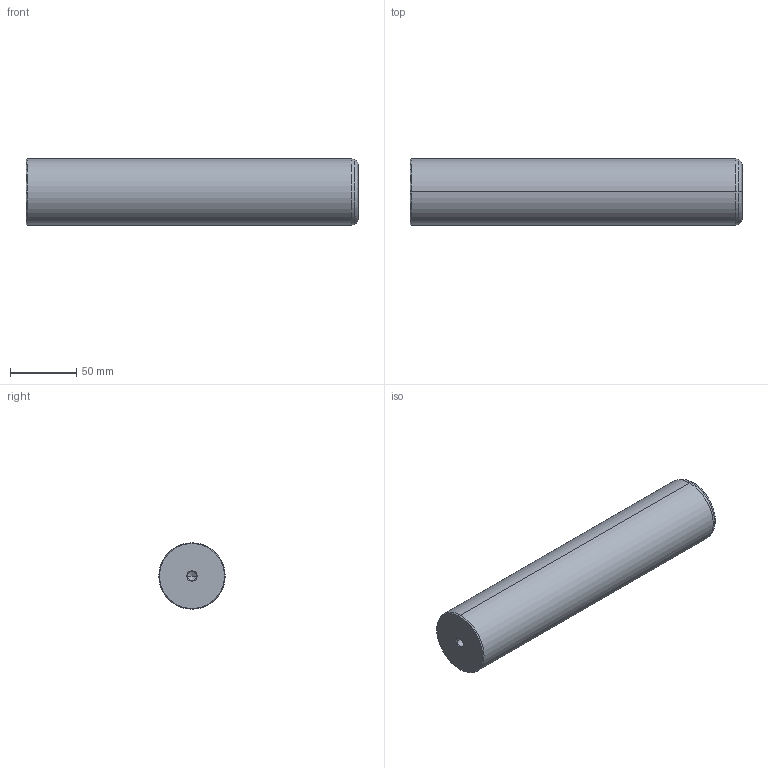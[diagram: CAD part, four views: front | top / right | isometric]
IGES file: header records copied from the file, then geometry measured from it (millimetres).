
Start section: START RECORD GO HERE.
Global section: file name: 720-50x250.igs; native system: DASSAULT SYSTEMES CATIA V5 R20 - www.3ds.com; preprocessor: CATIA Version 5 Release 20 ; author: Utente; organization: NB04-ASUS; date: 20201230.224215; units: millimetre
Bounding box: 250 x 50 x 50 mm (x, y, z)
Surface area: 43789.6 mm2 (no closed solid volume)
Topology: 0 solids, 0 shells, 22 faces, 108 edges, 104 vertices
Faces by surface type: revolution 20, plane 2
